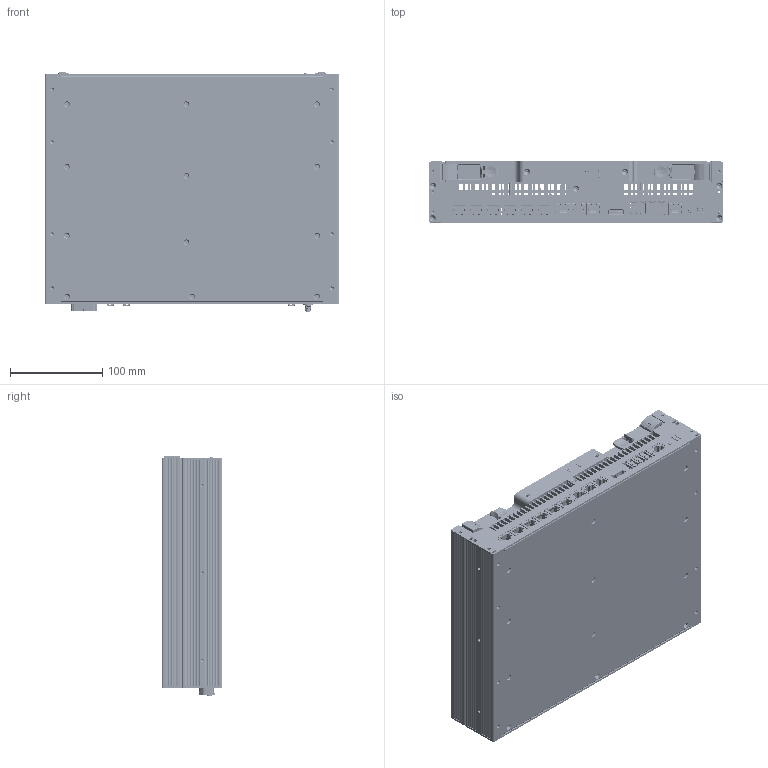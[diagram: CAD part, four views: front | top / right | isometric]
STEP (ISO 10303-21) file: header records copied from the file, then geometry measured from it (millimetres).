
FILE_DESCRIPTION(/* description */ (''),/* implementation_level */ '2;1');
FILE_NAME(/* name */ 'D:\Programm_Data\Autodesk\components\VP7540 vereinfacht kundenmodel\VP7540_02.stp',/* time_stamp */ '2024-04-17T11:25:54+02:00',/* author */ ('viskhp'),/* organization */ (''),/* preprocessor_version */ 'ST-DEVELOPER v18.1',/* originating_system */ 'Autodesk Inventor 2022',/* authorisation */ '');
FILE_SCHEMA (('AUTOMOTIVE_DESIGN { 1 0 10303 214 3 1 1 }'));
Products named in the file (1): VP7540
Bounding box: 320 x 66.15 x 260.77 mm (x, y, z)
Volume: 1683827.2 mm3; surface area: 1201222.8 mm2
Topology: 2 solids, 67 shells, 26103 faces, 71954 edges, 46371 vertices
Faces by surface type: plane 16609, cylinder 6847, bspline 1613, torus 475, cone 377, sphere 182
Full cylindrical faces by diameter (mm): 0.46 x180, 0.64 x90, 0.69 x90, 0.9 x4, 0.92 x1, 1 x116, 1.05 x66, 1.2 x2, 1.25 x2, 1.27 x3, 1.3 x1, 1.4 x8, 1.55 x6, 1.95 x12, 1.956 x2, 2 x12, 2.05 x17, 2.2 x18, 2.32 x4, 2.5 x95, 2.9 x4, 3 x2, 3.2 x4, 3.3 x26, 3.4 x25, 3.6 x12, 3.72 x2, 3.734 x2, 3.8 x1, 4 x13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
Entity records: 922621 total; most frequent: CARTESIAN_POINT 228501, ORIENTED_EDGE 143286, DIRECTION 132291, EDGE_CURVE 71751, LINE 53033, VECTOR 53033, VERTEX_POINT 46371, AXIS2_PLACEMENT_3D 39629
